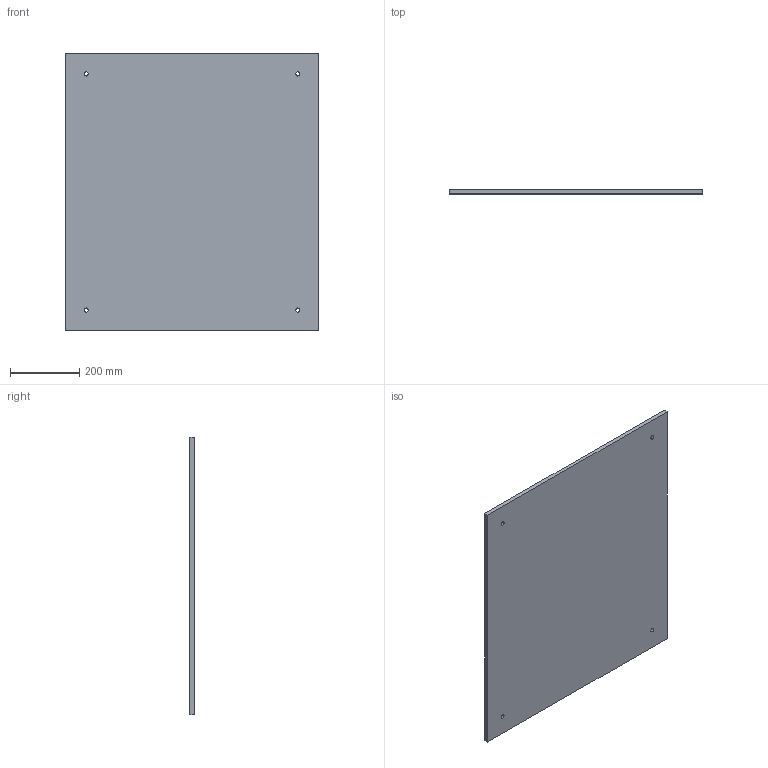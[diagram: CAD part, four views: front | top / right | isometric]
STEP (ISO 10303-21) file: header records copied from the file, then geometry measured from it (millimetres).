
FILE_DESCRIPTION(('Open CASCADE Model'),'2;1');
FILE_NAME('Open CASCADE Shape Model','2026-10-31T07:08:47',('Author'),( 'Open CASCADE'),'Open CASCADE STEP processor 7.9','Open CASCADE 7.9' ,'Unknown');
FILE_SCHEMA(('AUTOMOTIVE_DESIGN { 1 0 10303 214 1 1 1 1 }'));
Length unit declared in the file: millimetre
Products named in the file (1): Open CASCADE STEP translator 7.9 2
Bounding box: 730 x 12 x 800 mm (x, y, z)
Volume: 7002571.3 mm3; surface area: 1205624.8 mm2
Topology: 1 solids, 1 shells, 10 faces, 24 edges, 16 vertices
Faces by surface type: plane 6, cylinder 4
Full cylindrical faces by diameter (mm): 12 x4
Entity records: 634 total; most frequent: DIRECTION 102, CARTESIAN_POINT 99, LINE 56, VECTOR 56, ORIENTED_EDGE 48, PCURVE 48, DEFINITIONAL_REPRESENTATION 48, EDGE_CURVE 24
